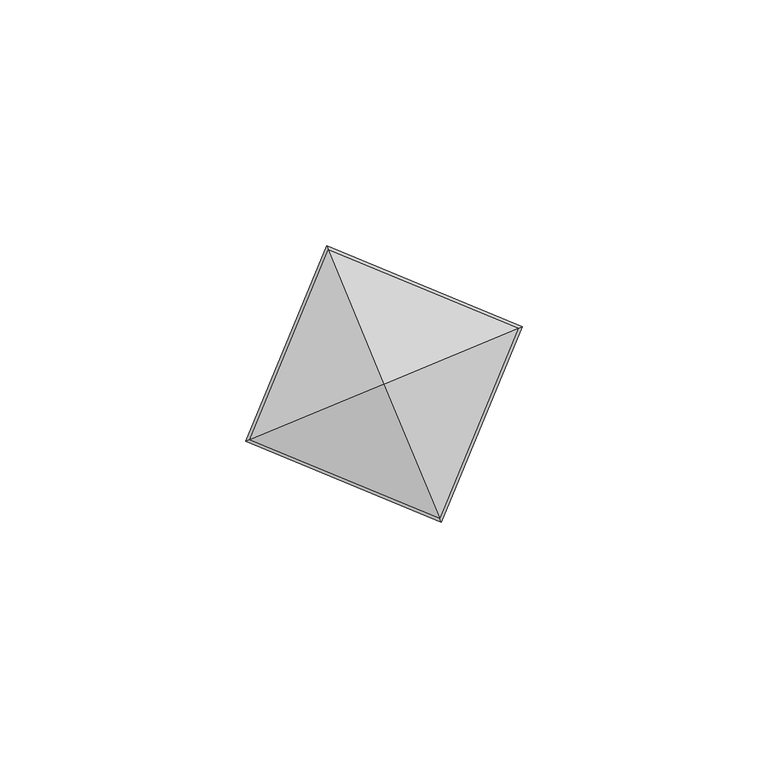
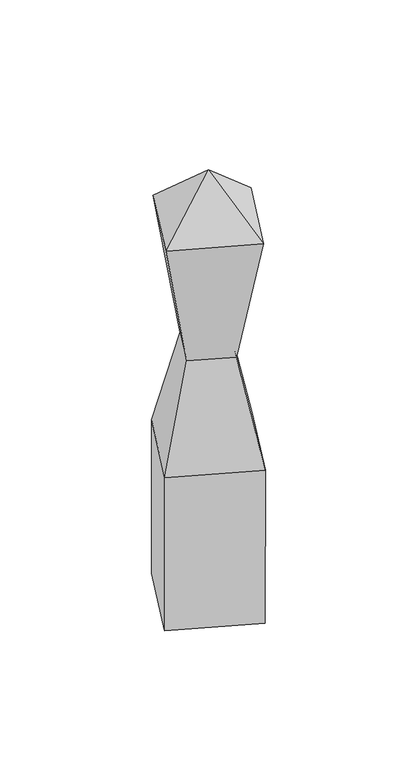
"""IFC4 building model written with IfcOpenShell, lengths in millimetres: geographic element geometry, Enscape AssetDefinition - Grinder 004 Salt : Enscape AssetDefinition - Grinder 004 Salt."""

from ifc_helpers import new_model, si_unit, origin, place, context, project, spatial, triangles, source, transform, mapped, element, save


def geographic_element_531842fa(model_context):
    return source(origin(), model_context, "Body", "Tessellation", [
        triangles([(28.0842278, 11.6324772, 0.485847), (-11.6665185, 28.177066, 79.7892795), (-11.6324772, 28.0842278, 0.485847), (0.0, 0.0, 0.485847), (5.7662104, -13.920394, 131.6542369), (-28.1605608, -11.6417608, 79.7892795), (-28.0842278, -11.6324772, 0.485847), (11.658266, -28.1347721, 79.7892795), (28.1523082, 11.6840536, 79.7892795), (11.6324772, -28.0842278, 0.485847), (13.920394, 5.7662104, 131.6542369), (-5.7662104, 13.920394, 131.6542369), (27.3374029, 11.3230212, 196.4864442), (-11.3230212, 27.3374029, 196.4864442), (-13.920394, -5.7662104, 131.6542369), (-27.3374029, -11.3230212, 196.4864442), (11.3230212, -27.3374029, 196.4864442), (0.0, 0.0, 222.183731)], [[16, 17, 18], [14, 16, 18], [13, 14, 18], [17, 13, 18], [11, 13, 17], [5, 17, 16], [17, 5, 11], [16, 15, 5], [15, 16, 14], [14, 12, 15], [13, 11, 12], [12, 14, 13], [12, 11, 9], [8, 9, 11], [11, 5, 8], [9, 8, 10], [10, 7, 4], [7, 10, 8], [5, 15, 6], [6, 8, 5], [8, 6, 7], [15, 12, 2], [2, 6, 15], [9, 2, 12], [7, 3, 4], [6, 2, 3], [3, 7, 6], [3, 1, 4], [10, 4, 1], [10, 1, 9], [2, 9, 1], [1, 3, 2]]),
    ])


if __name__ == "__main__":
    model = new_model("IFC4")
    model_context = context("Model", 3, world=origin())
    ifc_project = project(units=[si_unit("LENGTHUNIT", "METRE", prefix="MILLI")], contexts=[model_context])
    site = spatial("IfcSite", under=ifc_project)
    building = spatial("IfcBuilding", under=site)
    placement = place(None, origin())
    geographic_element_shape = geographic_element_531842fa(model_context)
    element("IfcGeographicElement", 1, ObjectType="Enscape AssetDefinition - Grinder 004 Salt : Enscape AssetDefinition - Grinder 004 Salt", at=placement, inside=building, context=model_context, shape_type="MappedRepresentation", body=[
        mapped(geographic_element_shape, transform((0.0, 0.0, 0.0), x_axis=(1.0, 0.0, 0.0), y_axis=(0.0, 1.0, 0.0), z_axis=(0.0, 0.0, 1.0))),
    ])
    save(model, "model.ifc")
